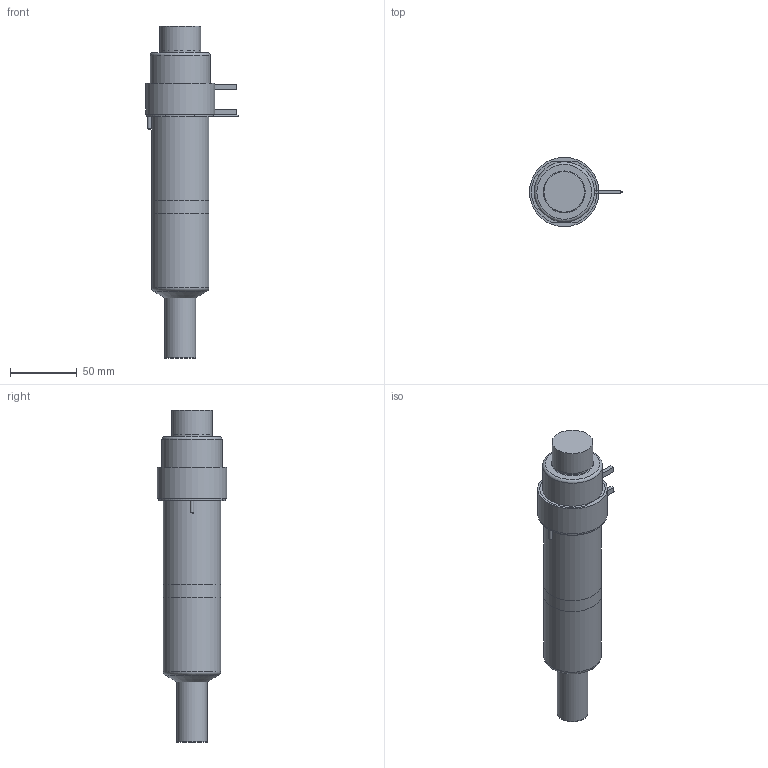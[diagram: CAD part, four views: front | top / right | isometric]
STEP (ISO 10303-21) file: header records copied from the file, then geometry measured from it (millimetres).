
FILE_DESCRIPTION(/* description */ (''),/* implementation_level */ '2;1');
FILE_NAME(/* name */ 'SXYCN27145N3U_200C_a',/* time_stamp */ '2016-03-04T14:09:42+13:00',/* author */ (''),/* organization */ (''),/* preprocessor_version */ 'ST-DEVELOPER v9',/* originating_system */ 'UGS - NX 4.0',/* authorisation */ '');
FILE_SCHEMA (('CONFIG_CONTROL_DESIGN'));
Length unit declared in the file: millimetre
Products named in the file (1): mattD74Dheu0
Bounding box: 69.6 x 52 x 248.69 mm (x, y, z)
Volume: 565402.5 mm3; surface area: 71749.2 mm2
Topology: 7 solids, 7 shells, 91 faces, 176 edges, 113 vertices
Faces by surface type: plane 43, cylinder 29, torus 9, cone 8, bspline 1, sphere 1
Full cylindrical faces by diameter (mm): 1 x3, 2.5 x3, 12 x2, 22.61 x1, 22.995 x2, 27.5 x1, 30 x1, 30.4 x1, 38.1 x2, 43 x2, 45 x1, 50 x1, 52 x1
Entity records: 2357 total; most frequent: CARTESIAN_POINT 540, DIRECTION 380, ORIENTED_EDGE 276, AXIS2_PLACEMENT_3D 165, EDGE_LOOP 138, EDGE_CURVE 138, VERTEX_POINT 109, ADVANCED_FACE 91
